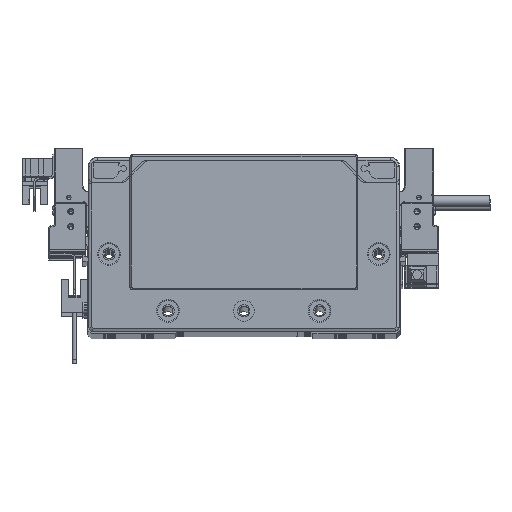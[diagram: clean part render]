
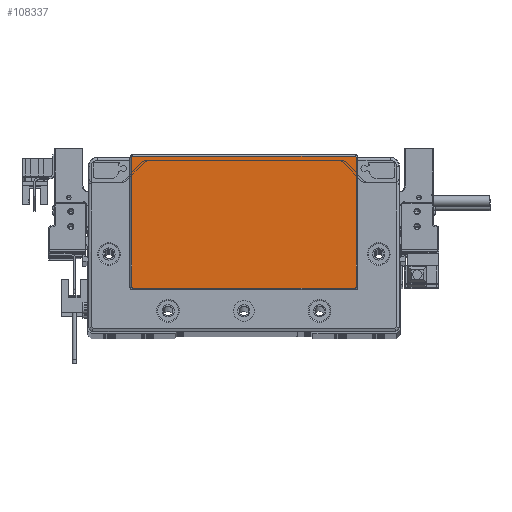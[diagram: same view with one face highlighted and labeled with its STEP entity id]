
A CAD part, top view. The second image highlights one B-rep face of the part: STEP entity #108337.
In plain terms, the highlighted planar face has unit normal (0, 0, 1) as drawn and (0, 0, -1) by its records, which use the part's own axes.
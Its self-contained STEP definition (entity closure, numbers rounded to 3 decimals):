
#944 = DIRECTION ( 'NONE',  ( -1., 0., 0. ) ) ;
#1578 = EDGE_CURVE ( 'NONE', #50072, #100447, #30269, .T. ) ;
#1864 = AXIS2_PLACEMENT_3D ( 'NONE', #85442, #43377, #8712 ) ;
#6513 = CARTESIAN_POINT ( 'NONE',  ( -59.25, 45.3, -2. ) ) ;
#7869 = CARTESIAN_POINT ( 'NONE',  ( 58.75, 45.8, -2. ) ) ;
#8169 = VECTOR ( 'NONE', #59525, 1000. ) ;
#8712 = DIRECTION ( 'NONE',  ( -1., 0., 0. ) ) ;
#10751 = ORIENTED_EDGE ( 'NONE', *, *, #47860, .T. ) ;
#11412 = LINE ( 'NONE', #61794, #106567 ) ;
#13900 = ORIENTED_EDGE ( 'NONE', *, *, #106860, .T. ) ;
#14318 = EDGE_CURVE ( 'NONE', #32096, #17065, #21235, .T. ) ;
#17065 = VERTEX_POINT ( 'NONE', #89521 ) ;
#17082 = DIRECTION ( 'NONE',  ( -1., 0., 0. ) ) ;
#17775 = DIRECTION ( 'NONE',  ( -1., 0., 0. ) ) ;
#19024 = AXIS2_PLACEMENT_3D ( 'NONE', #28653, #29216, #56061 ) ;
#21235 = CIRCLE ( 'NONE', #35512, 0.5 ) ;
#21535 = ORIENTED_EDGE ( 'NONE', *, *, #109050, .T. ) ;
#22595 = CIRCLE ( 'NONE', #19024, 0.5 ) ;
#24919 = PLANE ( 'NONE',  #65660 ) ;
#27037 = ORIENTED_EDGE ( 'NONE', *, *, #66226, .T. ) ;
#28078 = VERTEX_POINT ( 'NONE', #59430 ) ;
#28653 = CARTESIAN_POINT ( 'NONE',  ( -58.75, 45.3, -2. ) ) ;
#29216 = DIRECTION ( 'NONE',  ( 0., 0., -1. ) ) ;
#30269 = CIRCLE ( 'NONE', #64236, 0.5 ) ;
#32096 = VERTEX_POINT ( 'NONE', #7869 ) ;
#32264 = DIRECTION ( 'NONE',  ( -1., 0., 0. ) ) ;
#32471 = ORIENTED_EDGE ( 'NONE', *, *, #35576, .T. ) ;
#33631 = VERTEX_POINT ( 'NONE', #6513 ) ;
#35512 = AXIS2_PLACEMENT_3D ( 'NONE', #52976, #77639, #944 ) ;
#35576 = EDGE_CURVE ( 'NONE', #17065, #50072, #11412, .T. ) ;
#38622 = ORIENTED_EDGE ( 'NONE', *, *, #81063, .T. ) ;
#41128 = DIRECTION ( 'NONE',  ( 0., 0., -1. ) ) ;
#43377 = DIRECTION ( 'NONE',  ( 0., 0., -1. ) ) ;
#43716 = ORIENTED_EDGE ( 'NONE', *, *, #1578, .T. ) ;
#44392 = DIRECTION ( 'NONE',  ( 0., -1., 0. ) ) ;
#47522 = DIRECTION ( 'NONE',  ( 1., 0., 0. ) ) ;
#47860 = EDGE_CURVE ( 'NONE', #28078, #48641, #107382, .T. ) ;
#48641 = VERTEX_POINT ( 'NONE', #55839 ) ;
#50072 = VERTEX_POINT ( 'NONE', #101188 ) ;
#51278 = CARTESIAN_POINT ( 'NONE',  ( 58.75, -23.3, -2. ) ) ;
#52195 = VERTEX_POINT ( 'NONE', #83715 ) ;
#52976 = CARTESIAN_POINT ( 'NONE',  ( 58.75, 45.3, -2. ) ) ;
#55839 = CARTESIAN_POINT ( 'NONE',  ( -59.25, -23.3, -2. ) ) ;
#56061 = DIRECTION ( 'NONE',  ( -1., 0., 0. ) ) ;
#59430 = CARTESIAN_POINT ( 'NONE',  ( -58.75, -23.8, -2. ) ) ;
#59525 = DIRECTION ( 'NONE',  ( 0., 1., 0. ) ) ;
#61794 = CARTESIAN_POINT ( 'NONE',  ( 59.25, -23.3, -2. ) ) ;
#64236 = AXIS2_PLACEMENT_3D ( 'NONE', #51278, #66408, #32264 ) ;
#65660 = AXIS2_PLACEMENT_3D ( 'NONE', #68592, #41128, #17082 ) ;
#66226 = EDGE_CURVE ( 'NONE', #52195, #32096, #73286, .T. ) ;
#66408 = DIRECTION ( 'NONE',  ( 0., 0., -1. ) ) ;
#66976 = ORIENTED_EDGE ( 'NONE', *, *, #14318, .T. ) ;
#68592 = CARTESIAN_POINT ( 'NONE',  ( 0., 0., -2. ) ) ;
#73286 = LINE ( 'NONE', #90135, #107598 ) ;
#77639 = DIRECTION ( 'NONE',  ( 0., 0., -1. ) ) ;
#81063 = EDGE_CURVE ( 'NONE', #48641, #33631, #103806, .T. ) ;
#83715 = CARTESIAN_POINT ( 'NONE',  ( -58.75, 45.8, -2. ) ) ;
#83732 = FACE_OUTER_BOUND ( 'NONE', #105897, .T. ) ;
#85442 = CARTESIAN_POINT ( 'NONE',  ( -58.75, -23.3, -2. ) ) ;
#85541 = CARTESIAN_POINT ( 'NONE',  ( -58.75, -23.8, -2. ) ) ;
#85545 = CARTESIAN_POINT ( 'NONE',  ( 58.75, -23.8, -2. ) ) ;
#89521 = CARTESIAN_POINT ( 'NONE',  ( 59.25, 45.3, -2. ) ) ;
#90135 = CARTESIAN_POINT ( 'NONE',  ( 58.75, 45.8, -2. ) ) ;
#92280 = LINE ( 'NONE', #85541, #102923 ) ;
#94301 = CARTESIAN_POINT ( 'NONE',  ( -59.25, 45.3, -2. ) ) ;
#100447 = VERTEX_POINT ( 'NONE', #85545 ) ;
#101188 = CARTESIAN_POINT ( 'NONE',  ( 59.25, -23.3, -2. ) ) ;
#102923 = VECTOR ( 'NONE', #17775, 1000. ) ;
#103806 = LINE ( 'NONE', #94301, #8169 ) ;
#105897 = EDGE_LOOP ( 'NONE', ( #32471, #43716, #13900, #10751, #38622, #21535, #27037, #66976 ) ) ;
#106567 = VECTOR ( 'NONE', #44392, 1000. ) ;
#106860 = EDGE_CURVE ( 'NONE', #100447, #28078, #92280, .T. ) ;
#107382 = CIRCLE ( 'NONE', #1864, 0.5 ) ;
#107598 = VECTOR ( 'NONE', #47522, 1000. ) ;
#108337 = ADVANCED_FACE ( 'NONE', ( #83732 ), #24919, .T. ) ;
#109050 = EDGE_CURVE ( 'NONE', #33631, #52195, #22595, .T. ) ;
